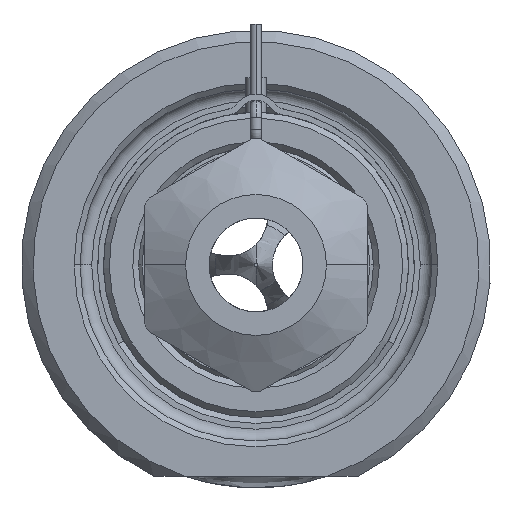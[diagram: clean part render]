
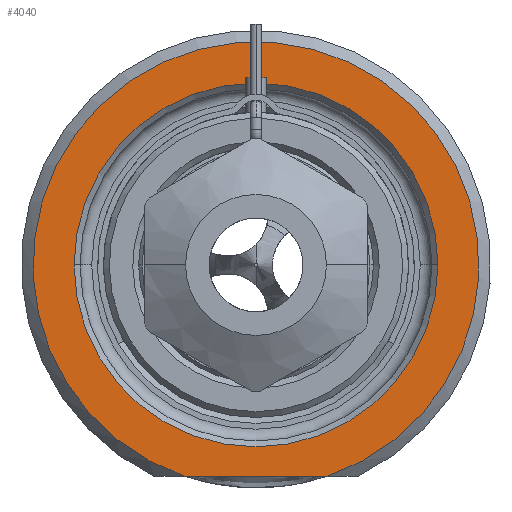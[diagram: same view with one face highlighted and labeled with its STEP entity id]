
A CAD part, front view. The second image highlights one B-rep face of the part: STEP entity #4040.
In plain terms, the highlighted planar face has unit normal (0, -1, 0).
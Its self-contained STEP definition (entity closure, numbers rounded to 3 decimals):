
#1=DIRECTION('',(1.,0.,0.));
#2=VECTOR('',#1,12.166);
#3=CARTESIAN_POINT('',(-6.083,0.,-18.));
#4=LINE('',#3,#2);
#5=CARTESIAN_POINT('',(0.,0.,0.));
#6=DIRECTION('',(0.,1.,0.));
#7=DIRECTION('',(-1.,0.,0.));
#8=AXIS2_PLACEMENT_3D('',#5,#6,#7);
#10=CARTESIAN_POINT('',(0.,0.,0.));
#11=DIRECTION('',(0.,1.,0.));
#12=DIRECTION('',(1.,0.,0.));
#13=AXIS2_PLACEMENT_3D('',#10,#11,#12);
#264=CARTESIAN_POINT('',(0.,0.,0.));
#265=DIRECTION('',(0.,-1.,0.));
#266=DIRECTION('',(0.32,0.,-0.947));
#267=AXIS2_PLACEMENT_3D('',#264,#265,#266);
#3410=CARTESIAN_POINT('',(-15.5,0.,0.));
#3411=CARTESIAN_POINT('',(15.5,0.,0.));
#3412=VERTEX_POINT('',#3410);
#3413=VERTEX_POINT('',#3411);
#3468=CARTESIAN_POINT('',(-6.083,0.,-18.));
#3469=CARTESIAN_POINT('',(6.083,0.,-18.));
#3470=VERTEX_POINT('',#3468);
#3471=VERTEX_POINT('',#3469);
#4023=CARTESIAN_POINT('',(0.,0.,0.));
#4024=DIRECTION('',(0.,-1.,0.));
#4025=DIRECTION('',(1.,0.,0.));
#4026=AXIS2_PLACEMENT_3D('',#4023,#4024,#4025);
#4027=PLANE('',#4026);
#4029=ORIENTED_EDGE('',*,*,#4028,.F.);
#4031=ORIENTED_EDGE('',*,*,#4030,.F.);
#4032=EDGE_LOOP('',(#4029,#4031));
#4033=FACE_OUTER_BOUND('',#4032,.F.);
#4035=ORIENTED_EDGE('',*,*,#4034,.F.);
#4037=ORIENTED_EDGE('',*,*,#4036,.F.);
#4038=EDGE_LOOP('',(#4035,#4037));
#4039=FACE_BOUND('',#4038,.F.);
#4040=ADVANCED_FACE('',(#4033,#4039),#4027,.T.);
#9=CIRCLE('',#8,15.5);
#14=CIRCLE('',#13,15.5);
#268=CIRCLE('',#267,19.);
#4028=EDGE_CURVE('',#3470,#3471,#4,.T.);
#4030=EDGE_CURVE('',#3471,#3470,#268,.T.);
#4034=EDGE_CURVE('',#3412,#3413,#9,.T.);
#4036=EDGE_CURVE('',#3413,#3412,#14,.T.);
